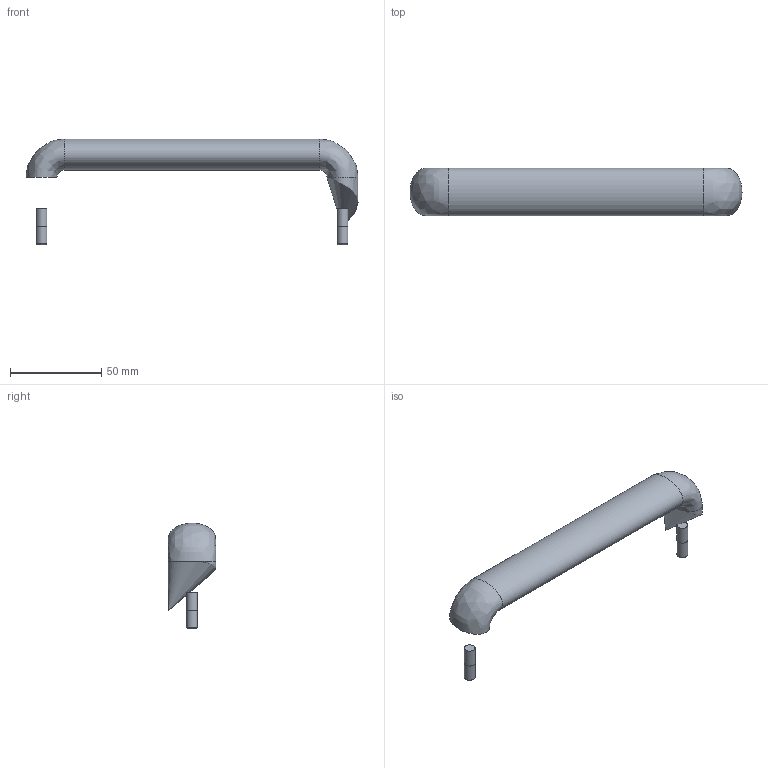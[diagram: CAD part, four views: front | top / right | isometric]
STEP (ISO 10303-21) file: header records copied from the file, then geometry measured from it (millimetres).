
FILE_DESCRIPTION( ('This file contains a STEP AP42 implementation' ,'as created by ZW3D STEP Interface translator.') ,'2;1' );
FILE_NAME( 'U.50_190.stp' ,'26 5 8. 7 426', (''), ('ZWCAD Software Co.'), 'Version 1.0', 'ZW3D to STEP translator', '' );
FILE_SCHEMA(('AP242_MANAGED_MODEL_BASED_3D_ENGINEERING_MIM_LF { 1 0 10303 442 1 1 4 }'));
Length unit declared in the file: millimetre
Products named in the file (1): 0
Bounding box: 181.99 x 26 x 57.99 mm (x, y, z)
Volume: 69578 mm3; surface area: 15456 mm2
Topology: 5 solids, 5 shells, 19 faces, 24 edges, 15 vertices
Faces by surface type: plane 8, bspline 5, cylinder 4, cone 2
Full cylindrical faces by diameter (mm): 6 x4
Entity records: 547 total; most frequent: CARTESIAN_POINT 198, DIRECTION 67, ORIENTED_EDGE 54, AXIS2_PLACEMENT_3D 29, EDGE_CURVE 27, EDGE_LOOP 21, FACE_OUTER_BOUND 19, ADVANCED_FACE 19
